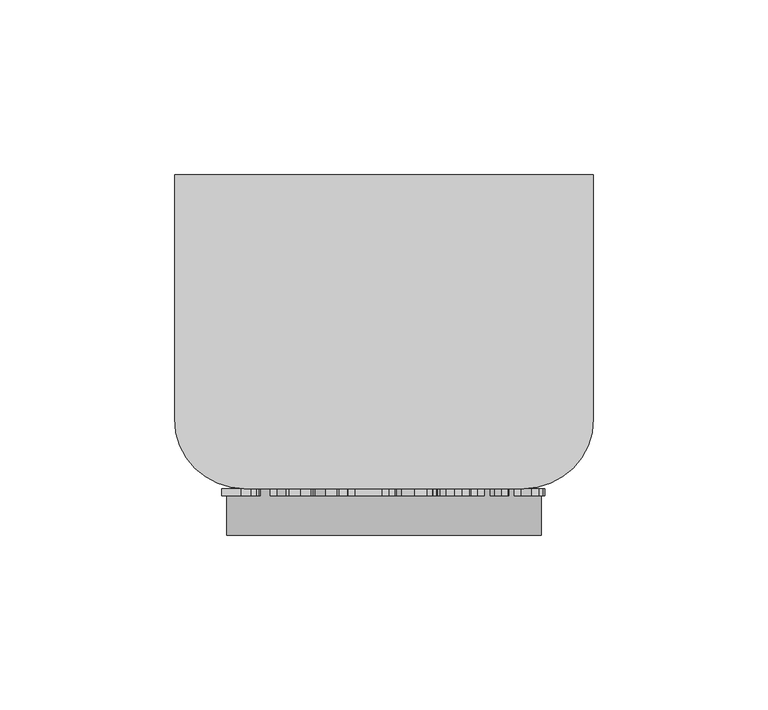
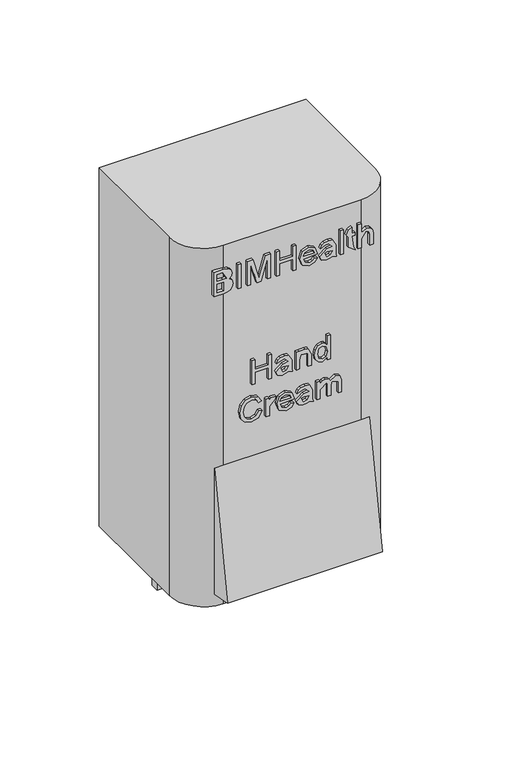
"""IFC4 building model written with IfcOpenShell, lengths in millimetres: proxy geometry, BIMHealth-Hand_Cream_Dispenser-LOD2A-v1 : BIMHealth-Hand_Cream_Dispenser-LOD2A-v1."""

import ifcopenshell
import ifcopenshell.guid

model = None  # the IFC model being written
_history = None  # IfcOwnerHistory: only IFC2X3 demands one
_inside = {}  # id of a spatial element -> (the spatial element, [elements in it])
_under = {}  # id of a project, library or spatial element -> (it, [spatial elements below it])
_declared = {}  # id of a project -> (the project, [libraries it declares])
_typed = {}  # id of a type object -> (the type object, [elements of that type])
_made_of = {}  # id of a material, layer set ... -> (it, [elements and type objects made of it])


def new_model(schema):
    """Start an empty IFC model of exactly this schema.

    Asked for "IFC4X3", IfcOpenShell would pick the latest addendum, in which some entities
    have other attributes; the version numbers below select the first issue.
    IFC2X3 requires an IfcOwnerHistory on every rooted entity: one is made here for all.
    """
    global model, _history
    if schema == "IFC4X3":
        model = ifcopenshell.file(schema_version=(4, 3, 0, 0))
    else:
        model = ifcopenshell.file(schema=schema)
    _inside.clear()
    _under.clear()
    _declared.clear()
    _typed.clear()
    _made_of.clear()
    _history = None
    if model.schema == "IFC2X3":
        org = make("IfcOrganization", Name="unknown")
        user = make(
            "IfcPersonAndOrganization",
            ThePerson=make("IfcPerson", FamilyName="unknown"),
            TheOrganization=org,
        )
        app = make(
            "IfcApplication",
            ApplicationDeveloper=org,
            Version="unknown",
            ApplicationFullName="unknown",
            ApplicationIdentifier="unknown",
        )
        _history = make(
            "IfcOwnerHistory",
            OwningUser=user,
            OwningApplication=app,
            ChangeAction="ADDED",
            CreationDate=0,
        )
    return model


def make(cls, **values):
    """One entity of the class cls with the attributes given. An attribute that is None is left unset."""
    return model.create_entity(
        cls, **{name: value for name, value in values.items() if value is not None}
    )


def rooted(cls, **values):
    """An entity with a GlobalId (a new one), such as an element, a storey or a relation."""
    return make(cls, GlobalId=ifcopenshell.guid.new(), OwnerHistory=_history, **values)


def si_unit(unit_type, name, prefix=None):
    """IfcSIUnit, for example si_unit("LENGTHUNIT", "METRE", prefix="MILLI")."""
    return make("IfcSIUnit", UnitType=unit_type, Prefix=prefix, Name=name)


def assignment(units):
    """IfcUnitAssignment: the units of a project."""
    return None if units is None else make("IfcUnitAssignment", Units=units)


def point(xyz):
    """IfcCartesianPoint."""
    return None if xyz is None else make("IfcCartesianPoint", Coordinates=xyz)


def direction(xyz):
    """IfcDirection."""
    return None if xyz is None else make("IfcDirection", DirectionRatios=xyz)


def frame(location, z_axis=None, x_axis=None):
    """IfcAxis2Placement3D, a coordinate frame: its origin and axes. An axis left out is left unset."""
    return make(
        "IfcAxis2Placement3D",
        Location=point(location),
        Axis=direction(z_axis),
        RefDirection=direction(x_axis),
    )


def origin():
    """The frame at (0, 0, 0) with its axes left unset."""
    return frame((0.0, 0.0, 0.0))


def place(relative_to, where):
    """IfcLocalPlacement: puts the frame where relative to a parent placement (None: the world)."""
    return make(
        "IfcLocalPlacement", PlacementRelTo=relative_to, RelativePlacement=where
    )


def context(
    kind, dimensions, precision=None, world=None, true_north=None, identifier=None
):
    """IfcGeometricRepresentationContext, for example the 3D "Model" context."""
    return make(
        "IfcGeometricRepresentationContext",
        ContextIdentifier=identifier,
        ContextType=kind,
        CoordinateSpaceDimension=dimensions,
        Precision=precision,
        WorldCoordinateSystem=world,
        TrueNorth=true_north,
    )


def project(units=None, contexts=None):
    """IfcProject with its units and contexts."""
    return rooted(
        "IfcProject",
        Name="project",
        RepresentationContexts=contexts,
        UnitsInContext=assignment(units),
    )


def spatial(cls, under=None, at=None, **own):
    """A site, building, storey or space (cls), placed at a placement, below another one or the project."""
    s = rooted(cls, ObjectPlacement=at, **own)
    if under is not None:
        _under.setdefault(under.id(), (under, []))[1].append(s)
    return s


def polyline(points):
    """IfcPolyline through the points."""
    return make("IfcPolyline", Points=[point(p) for p in points])


def circle_curve(where, radius):
    """IfcCircle in the frame where."""
    return make("IfcCircle", Position=where, Radius=radius)


def outline(outer, holes=None, kind="AREA"):
    """IfcArbitraryClosedProfileDef: a profile drawn as a closed curve; with holes, ...WithVoids."""
    if holes is None:
        return make("IfcArbitraryClosedProfileDef", ProfileType=kind, OuterCurve=outer)
    return make(
        "IfcArbitraryProfileDefWithVoids",
        ProfileType=kind,
        OuterCurve=outer,
        InnerCurves=holes,
    )


def extrude(swept, where, along, depth):
    """IfcExtrudedAreaSolid: the profile swept, set in the frame where, extruded along a direction by depth."""
    return make(
        "IfcExtrudedAreaSolid",
        SweptArea=swept,
        Position=where,
        ExtrudedDirection=direction(along),
        Depth=depth,
    )


def shape(context_of_items, identifier, shape_type, items):
    """IfcShapeRepresentation: the items that make up one representation, for example the "Body"."""
    return make(
        "IfcShapeRepresentation",
        ContextOfItems=context_of_items,
        RepresentationIdentifier=identifier,
        RepresentationType=shape_type,
        Items=items,
    )


def source(mapping_origin, context_of_items, identifier, shape_type, items):
    """IfcRepresentationMap: a shape defined once, which mapped items show again and again."""
    return make(
        "IfcRepresentationMap",
        MappingOrigin=mapping_origin,
        MappedRepresentation=shape(context_of_items, identifier, shape_type, items),
    )


def transform(
    local_origin,
    x_axis=None,
    y_axis=None,
    z_axis=None,
    scale=None,
    scale2=None,
    scale3=None,
    uniform=True,
):
    """IfcCartesianTransformationOperator3D, or its non-uniform kind. x_axis, y_axis, z_axis: its Axis1, 2, 3."""
    if uniform:
        return make(
            "IfcCartesianTransformationOperator3D",
            Axis1=direction(x_axis),
            Axis2=direction(y_axis),
            LocalOrigin=point(local_origin),
            Scale=scale,
            Axis3=direction(z_axis),
        )
    return make(
        "IfcCartesianTransformationOperator3DnonUniform",
        Axis1=direction(x_axis),
        Axis2=direction(y_axis),
        LocalOrigin=point(local_origin),
        Scale=scale,
        Axis3=direction(z_axis),
        Scale2=scale2,
        Scale3=scale3,
    )


def mapped(mapping_source, mapping_target):
    """IfcMappedItem: shows the shape of a source again, moved by a transform."""
    return make(
        "IfcMappedItem", MappingSource=mapping_source, MappingTarget=mapping_target
    )


def made_of(thing, what):
    """Note that an element or type object is made of a material, layer set ...; save() writes the relation."""
    if what is not None:
        _made_of.setdefault(what.id(), (what, []))[1].append(thing)
    return thing


def element(
    cls,
    number,
    at=None,
    inside=None,
    cuts=None,
    type_object=None,
    material=None,
    context=None,
    identifier="Body",
    shape_type=None,
    held_by="IfcProductDefinitionShape",
    body=None,
    shapes=None,
    **own,
):
    """One element of the class cls, such as IfcWall. Its Tag is "e" and its number.

    at: its placement. inside: the storey or other place that contains it. cuts: it is an
    opening in that element (IfcRelVoidsElement). A single representation is given by context,
    identifier, shape_type and body (its items); several are given by shapes. held_by: the class
    of the entity that holds the representations. save() writes the other relations.
    """
    e = rooted(cls, Tag="e%d" % number, ObjectPlacement=at, **own)
    if body is not None:
        shapes = [shape(context, identifier, shape_type, body)]
    if shapes is not None:
        e.Representation = make(held_by, Representations=shapes)
    if inside is not None:
        _inside.setdefault(inside.id(), (inside, []))[1].append(e)
    if cuts is not None:
        rooted(
            "IfcRelVoidsElement", RelatingBuildingElement=cuts, RelatedOpeningElement=e
        )
    if type_object is not None:
        _typed.setdefault(type_object.id(), (type_object, []))[1].append(e)
    return made_of(e, material)


def aggregate(whole, parts):
    """IfcRelAggregates: a whole, such as a stair, and the parts it consists of."""
    return rooted("IfcRelAggregates", RelatingObject=whole, RelatedObjects=parts)


def save(model, path):
    """Write the relations noted so far, then the file.

    IfcRelAggregates (storeys below a building ...), IfcRelContainedInSpatialStructure (elements
    in a storey), IfcRelDefinesByType, IfcRelAssociatesMaterial and IfcRelDeclares: one each for
    every whole, place, type object, material and project.
    """
    for whole, parts in _under.values():
        aggregate(whole, parts)
    for where, things in _inside.values():
        rooted(
            "IfcRelContainedInSpatialStructure",
            RelatedElements=things,
            RelatingStructure=where,
        )
    for kind, things in _typed.values():
        rooted("IfcRelDefinesByType", RelatedObjects=things, RelatingType=kind)
    for what, things in _made_of.values():
        rooted("IfcRelAssociatesMaterial", RelatedObjects=things, RelatingMaterial=what)
    for by, libraries in _declared.values():
        rooted("IfcRelDeclares", RelatingContext=by, RelatedDefinitions=libraries)
    model.write(path)


def plane_surface(at):
    """IfcPlane: the flat surface through the origin of the frame at, square to its z axis."""
    return make("IfcPlane", Position=at)


def cylinder_surface(at, radius):
    """IfcCylindricalSurface: all points at the distance radius from the z axis of the frame at."""
    return make("IfcCylindricalSurface", Position=at, Radius=radius)


def revolved_surface(curve, axis_point, axis_direction):
    """IfcSurfaceOfRevolution: the curve turned about the line through axis_point along axis_direction."""
    return make(
        "IfcSurfaceOfRevolution",
        SweptCurve=make("IfcArbitraryOpenProfileDef", ProfileType="CURVE", Curve=curve),
        AxisPosition=make("IfcAxis1Placement", Location=point(axis_point), Axis=direction(axis_direction)),
    )


def advanced_brep(points, edges, surfaces, faces):
    """IfcAdvancedBrep: a solid bounded by faces that lie on surfaces and meet in shared edges.

    An edge is (start, end): straight between two places in points (the first is 0);
    or (start, end, curve); or (start, end, curve, False) where it runs against its curve.
    A face is (place in surfaces, loops), or (place, loops, False) where it looks against
    its surface's normal. A loop lists edges by number (the first is 1), with a minus sign
    where the edge is run from its end to its start. The first loop is the outer one.
    """
    corners = [point(p) for p in points]
    vertices = [make("IfcVertexPoint", VertexGeometry=c) for c in corners]
    made = []
    for start, end, *more in edges:
        made.append(
            make(
                "IfcEdgeCurve",
                EdgeStart=vertices[start],
                EdgeEnd=vertices[end],
                EdgeGeometry=more[0] if more else make("IfcPolyline", Points=[corners[start], corners[end]]),
                SameSense=more[1] if len(more) > 1 else True,
            )
        )
    hull = []
    for where, loops, *sense in faces:
        bounds = []
        for j, loop in enumerate(loops):
            ring = [make("IfcOrientedEdge", EdgeElement=made[abs(k) - 1], Orientation=k > 0) for k in loop]
            bounds.append(
                make(
                    "IfcFaceOuterBound" if j == 0 else "IfcFaceBound",
                    Bound=make("IfcEdgeLoop", EdgeList=ring),
                    Orientation=True,
                )
            )
        hull.append(make("IfcAdvancedFace", Bounds=bounds, FaceSurface=surfaces[where], SameSense=sense[0] if sense else True))
    return make("IfcAdvancedBrep", Outer=make("IfcClosedShell", CfsFaces=hull))


def generic_models_60712680(model_context):
    return source(origin(), model_context, "Body", "SolidModel", [
        advanced_brep(
        [(105.0, -90.0, 1285.0), (105.0, -103.2245236, 1210.0), (105.0, -90.0, 1207.6681597), (15.0, -90.0, 1285.0), (15.0, -90.0, 1207.6681597), (15.0, -103.2245236, 1210.0), (100.0, -90.0, 1285.0), (20.0, -90.0, 1285.0), (20.0, -90.0, 1207.6681597), (100.0, -90.0, 1207.6681597), (120.0, 0.0, 1420.0), (0.0, 0.0, 1420.0), (0.0, -70.0, 1420.0), (20.0, -90.0, 1420.0), (100.0, -90.0, 1420.0), (120.0, -70.0, 1420.0), (120.0, 0.0, 1200.0), (120.0, -70.0, 1200.0), (100.0, -90.0, 1200.0), (20.0, -90.0, 1200.0), (0.0, -70.0, 1200.0), (0.0, 0.0, 1200.0), (105.0, -28.5293941, 1200.0), (105.0, -22.9795216, 1200.0), (15.0, -22.9795216, 1200.0), (15.0, -28.5293941, 1200.0), (50.0, -57.3334755, 1200.0), (70.0, -57.3334755, 1200.0), (105.0, -27.2939412, 1175.1752078), (105.0, -32.3334755, 1175.1752078), (15.0, -27.2939412, 1175.1752078), (15.0, -32.3334755, 1175.1752078), (50.0, -57.3334755, 1190.0), (70.0, -57.3334755, 1190.0)],
        [
            (0, 1),
            (1, 2),
            (2, 0),
            (3, 4),
            (4, 5),
            (5, 3),
            (0, 6),
            (6, 7),
            (7, 3),
            (5, 1),
            (4, 8),
            (8, 9),
            (9, 2),
            (9, 6),
            (7, 8),
            (10, 11),
            (11, 12),
            (12, 13, circle_curve(frame((20.0, -70.0, 1420.0), z_axis=(0.0, 0.0, 1.0), x_axis=(1.0, 0.0, 0.0)), 20.0)),
            (13, 14),
            (14, 15, circle_curve(frame((100.0, -70.0, 1420.0), z_axis=(0.0, 0.0, 1.0), x_axis=(-1.0, 0.0, 0.0)), 20.0)),
            (15, 10),
            (16, 17),
            (17, 18, circle_curve(frame((100.0, -70.0, 1200.0), z_axis=(0.0, 0.0, -1.0), x_axis=(-1.0, 0.0, 0.0)), 20.0)),
            (18, 19),
            (19, 20, circle_curve(frame((20.0, -70.0, 1200.0), z_axis=(0.0, 0.0, -1.0), x_axis=(1.0, 0.0, 0.0)), 20.0)),
            (20, 21),
            (21, 16),
            (22, 23),
            (23, 24),
            (24, 25),
            (25, 22),
            (26, 27, circle_curve(frame((60.0, -57.3334755, 1200.0), z_axis=(0.0, 0.0, 1.0), x_axis=(1.0, 0.0, 0.0)), 10.0)),
            (27, 26, circle_curve(frame((60.0, -57.3334755, 1200.0), z_axis=(0.0, 0.0, 1.0), x_axis=(1.0, 0.0, 0.0)), 10.0)),
            (10, 16),
            (21, 11),
            (20, 12),
            (19, 8),
            (7, 13),
            (6, 14),
            (18, 9),
            (17, 15),
            (28, 23, circle_curve(frame((105.0, 14.3301993, 1180.7284569), z_axis=(-1.0, 0.0, 0.0), x_axis=(0.0, -1.0, 0.0)), 41.9929476)),
            (22, 29, circle_curve(frame((105.0, 14.3301993, 1180.7284569), z_axis=(1.0, 0.0, 0.0), x_axis=(0.0, -1.0, 0.0)), 46.9929476)),
            (29, 28),
            (30, 31),
            (31, 25, circle_curve(frame((15.0, 14.3301993, 1180.7284569), z_axis=(-1.0, 0.0, 0.0), x_axis=(0.0, -1.0, 0.0)), 46.9929476)),
            (24, 30, circle_curve(frame((15.0, 14.3301993, 1180.7284569), z_axis=(1.0, 0.0, 0.0), x_axis=(0.0, -1.0, 0.0)), 41.9929476)),
            (28, 30),
            (31, 29),
            (32, 33, circle_curve(frame((60.0, -57.3334755, 1190.0), z_axis=(0.0, 0.0, -1.0), x_axis=(1.0, 0.0, 0.0)), 10.0)),
            (33, 32, circle_curve(frame((60.0, -57.3334755, 1190.0), z_axis=(0.0, 0.0, -1.0), x_axis=(1.0, 0.0, 0.0)), 10.0)),
            (33, 27),
            (26, 32),
        ],
        [
            plane_surface(frame((105.0, -90.0, 1285.0), z_axis=(1.0, 0.0, 0.0), x_axis=(0.0, -0.17364817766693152, -0.9848077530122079))),
            plane_surface(frame((15.0, -90.0, 1285.0), z_axis=(-1.0, 0.0, 0.0), x_axis=(0.0, 0.17364817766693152, 0.9848077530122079))),
            plane_surface(frame((105.0, -90.0, 1285.0), z_axis=(0.0, -0.9848077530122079, 0.17364817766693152), x_axis=(-1.0, 0.0, 0.0))),
            plane_surface(frame((105.0, -103.2245236, 1210.0), z_axis=(0.0, -0.173648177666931, -0.984807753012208), x_axis=(-1.0, 0.0, 0.0))),
            plane_surface(frame((105.0, -90.0, 1207.6681597), z_axis=(0.0, 1.0, 0.0), x_axis=(-1.0, 0.0, 0.0))),
            plane_surface(frame((0.0, 0.0, 1420.0), z_axis=(0.0, 0.0, 1.0), x_axis=(-1.0, 0.0, 0.0))),
            plane_surface(frame((0.0, 0.0, 1200.0), z_axis=(0.0, 0.0, -1.0), x_axis=(1.0, 0.0, 0.0))),
            plane_surface(frame((120.0, 0.0, 1420.0), z_axis=(0.0, 1.0, 0.0), x_axis=(0.0, 0.0, -1.0))),
            plane_surface(frame((0.0, 0.0, 1420.0), z_axis=(-1.0, 0.0, 0.0), x_axis=(0.0, 0.0, -1.0))),
            cylinder_surface(frame((20.0, -70.0, 1200.0), z_axis=(0.0, 0.0, 1.0), x_axis=(1.0, 0.0, 0.0)), 20.0),
            plane_surface(frame((20.0, -90.0, 1420.0), z_axis=(0.0, -1.0, 0.0), x_axis=(0.0, 0.0, -1.0))),
            cylinder_surface(frame((100.0, -70.0, 1200.0), z_axis=(0.0, 0.0, 1.0), x_axis=(-1.0, 0.0, 0.0)), 20.0),
            plane_surface(frame((120.0, -70.0, 1420.0), z_axis=(1.0, 0.0, 0.0), x_axis=(0.0, 0.0, -1.0))),
            plane_surface(frame((105.0, -27.6627483, 1180.7284569), z_axis=(1.0, 0.0, 0.0), x_axis=(0.0, 0.0, 1.0))),
            plane_surface(frame((15.0, -27.6627483, 1180.7284569), z_axis=(-1.0, 0.0, 0.0), x_axis=(0.0, 0.0, -1.0))),
            revolved_surface(polyline([(15.0, -27.6627483, 1180.7284569), (105.0, -27.6627483, 1180.7284569)]), (15.0, 14.3301993, 1180.7284569), (-1.0, 0.0, 0.0)),
            cylinder_surface(frame((15.0, 14.3301993, 1180.7284569), z_axis=(1.0, 0.0, 0.0), x_axis=(0.0, -1.0, 0.0)), 46.9929476),
            plane_surface(frame((105.0, -32.3334755, 1175.1752078), z_axis=(0.0, 0.0, -1.0), x_axis=(-1.0, 0.0, 0.0))),
            plane_surface(frame((70.0, -57.3334755, 1190.0), z_axis=(0.0, 0.0, -1.0), x_axis=(0.0, -1.0, 0.0))),
            cylinder_surface(frame((60.0, -57.3334755, 1190.0), z_axis=(0.0, 0.0, 1.0), x_axis=(1.0, 0.0, 0.0)), 10.0),
        ],
        [
            (0, [[1, 2, 3]]),
            (1, [[4, 5, 6]]),
            (2, [[-1, 7, 8, 9, -6, 10]]),
            (3, [[-2, -10, -5, 11, 12, 13]]),
            (4, [[-3, -13, 14, -7]]),
            (4, [[-4, -9, 15, -11]]),
            (5, [[16, 17, 18, 19, 20, 21]]),
            (6, [[22, 23, 24, 25, 26, 27], [28, 29, 30, 31], [32, 33]]),
            (7, [[-16, 34, -27, 35]]),
            (8, [[-17, -35, -26, 36]]),
            (9, [[-18, -36, -25, 37, -15, 38]]),
            (10, [[-19, -38, -8, 39]]),
            (10, [[-24, 40, -12, -37]]),
            (11, [[-20, -39, -14, -40, -23, 41]]),
            (12, [[-21, -41, -22, -34]]),
            (13, [[42, -28, 43, 44]]),
            (14, [[45, 46, -30, 47]]),
            (15, [[-42, 48, -47, -29]]),
            (16, [[-43, -31, -46, 49]]),
            (17, [[-44, -49, -45, -48]]),
            (18, [[50, 51]]),
            (19, [[-51, 52, -32, 53]]),
            (19, [[-50, -53, -33, -52]]),
        ],
    ),
        extrude(outline(polyline([(1330.1664451, 35.5223483), (1330.1664451, 37.3685022), (1337.0895221, 37.3685022), (1337.0895221, 45.214656), (1330.1664451, 45.214656), (1330.1664451, 47.0608099), (1344.9356759, 47.0608099), (1344.9356759, 45.214656), (1338.9356759, 45.214656), (1338.9356759, 37.3685022), (1344.9356759, 37.3685022), (1344.9356759, 35.5223483), (1330.1664451, 35.5223483)])), frame((0.0, -92.0, 0.0), z_axis=(0.0, 1.0, 0.0), x_axis=(0.0, 0.0, 1.0)), (0.0, 0.0, 1.0), 2.0),
        extrude(outline(polyline([(1330.8587528, 57.214656), (1330.1664451, 59.2915791), (1331.7187288, 58.9237906), (1334.9260605, 58.8300406), (1337.2229355, 58.8300406), (1340.9152432, 56.9099685), (1341.2433682, 54.6725887), (1340.871974, 52.2368916), (1339.8154836, 50.6287185), (1338.012599, 49.8300406), (1339.0420461, 52.5668195), (1339.3972144, 54.4346079), (1337.0895221, 56.9730695), (1336.4549067, 53.7711464), (1333.0510605, 49.5992714), (1330.8118778, 50.5349685), (1329.9356759, 53.2158579), (1330.2998586, 55.1936224), (1330.8587528, 57.214656)]), holes=[polyline([(1334.2680076, 56.8324445), (1332.2235365, 55.4766753), (1331.7818298, 53.6088868), (1334.3779836, 52.4171801), (1334.6772625, 54.0055214), (1334.2680076, 56.8324445)])]), frame((0.0, -92.0, 0.0), z_axis=(0.0, 1.0, 0.0), x_axis=(0.0, 0.0, 1.0)), (0.0, 0.0, 1.0), 2.0),
        extrude(outline(polyline([(1330.1664451, 61.3685022), (1330.1664451, 63.214656), (1335.9212528, 63.214656), (1338.6724548, 64.0566031), (1338.2109163, 68.0788387), (1336.5775028, 68.2915791), (1330.1664451, 68.2915791), (1330.1664451, 70.1377329), (1336.8263009, 70.1377329), (1340.8918057, 68.2969878), (1341.2433682, 66.5535983), (1341.012599, 63.214656), (1341.012599, 61.3685022), (1330.1664451, 61.3685022)])), frame((0.0, -92.0, 0.0), z_axis=(0.0, 1.0, 0.0), x_axis=(0.0, 0.0, 1.0)), (0.0, 0.0, 1.0), 2.0),
        extrude(outline(polyline([(1330.1664451, 79.3685022), (1330.1664451, 81.214656), (1344.9356759, 81.214656), (1344.9356759, 79.3685022), (1339.4332721, 79.3685022), (1340.7403634, 78.1533579), (1341.2433682, 76.4514349), (1340.5402432, 74.0950647), (1338.5174067, 72.512132), (1335.5787048, 71.9838868), (1332.6418057, 72.5572041), (1330.6496182, 74.1725887), (1329.9356759, 76.4586464), (1331.9080317, 79.3685022), (1330.1664451, 79.3685022)]), holes=[polyline([(1335.5859163, 73.8300406), (1338.4795461, 74.6088868), (1339.3972144, 76.5523964), (1338.4416855, 78.5554012), (1335.4452913, 79.3685022), (1332.685075, 78.5698243), (1331.7818298, 76.6281176), (1332.7283442, 74.6629733), (1335.5859163, 73.8300406)])]), frame((0.0, -92.0, 0.0), z_axis=(0.0, 1.0, 0.0), x_axis=(0.0, 0.0, 1.0)), (0.0, 0.0, 1.0), 2.0),
        extrude(outline(polyline([(1391.9233699, 13.5206171), (1391.9233699, 19.1131652), (1392.1775767, 21.4803527), (1392.9275767, 23.0867229), (1394.3410382, 24.163045), (1396.3260142, 24.5975402), (1398.6228892, 23.9611219), (1400.000293, 22.1420114), (1401.3073844, 23.6402085), (1403.0327449, 24.1360017), (1404.922168, 23.5464585), (1406.2581055, 21.9166508), (1406.6926007, 19.1564344), (1406.6926007, 13.5206171), (1391.9233699, 13.5206171)]), holes=[polyline([(1393.7695238, 15.366771), (1398.8464469, 15.366771), (1398.8464469, 18.9725402), (1393.7695238, 19.1528287), (1393.7695238, 15.366771)]), polyline([(1400.6926007, 15.366771), (1404.8464469, 15.366771), (1404.8464469, 18.4821556), (1400.8512546, 20.7069152), (1400.6926007, 18.7381652), (1400.6926007, 15.366771)])]), frame((0.0, -92.0, 0.0), z_axis=(0.0, 1.0, 0.0), x_axis=(0.0, 0.0, 1.0)), (0.0, 0.0, 1.0), 2.0),
        extrude(outline(polyline([(29.2129248, -92.0), (27.366771, -92.0), (27.366771, -90.0), (29.2129248, -90.0), (29.2129248, -92.0)])), frame((0.0, 0.0, 1391.9233699), z_axis=(0.0, 0.0, 1.0), x_axis=(1.0, 0.0, 0.0)), (0.0, 0.0, 1.0), 14.7692308),
        extrude(outline(polyline([(1391.9233699, 32.9052325), (1391.9233699, 34.7513864), (1404.8464469, 34.7513864), (1391.9233699, 38.4617229), (1391.9233699, 40.9641267), (1404.8464469, 44.6744633), (1391.9233699, 44.6744633), (1391.9233699, 46.5206171), (1406.6926007, 46.5206171), (1406.6926007, 43.3439344), (1396.4630334, 40.3727806), (1394.1084661, 39.7129248), (1396.2827449, 39.1035498), (1406.6926007, 36.0819152), (1406.6926007, 32.9052325), (1391.9233699, 32.9052325)])), frame((0.0, -92.0, 0.0), z_axis=(0.0, 1.0, 0.0), x_axis=(0.0, 0.0, 1.0)), (0.0, 0.0, 1.0), 2.0),
        extrude(outline(polyline([(1391.9233699, 49.7513864), (1391.9233699, 51.5975402), (1398.8464469, 51.5975402), (1398.8464469, 59.4436941), (1391.9233699, 59.4436941), (1391.9233699, 61.2898479), (1406.6926007, 61.2898479), (1406.6926007, 59.4436941), (1400.6926007, 59.4436941), (1400.6926007, 51.5975402), (1406.6926007, 51.5975402), (1406.6926007, 49.7513864), (1391.9233699, 49.7513864)])), frame((0.0, -92.0, 0.0), z_axis=(0.0, 1.0, 0.0), x_axis=(0.0, 0.0, 1.0)), (0.0, 0.0, 1.0), 2.0),
        extrude(outline(polyline([(1395.1541392, 71.8835979), (1393.9245719, 70.6936941), (1393.5387546, 68.8835979), (1394.3716873, 66.5055931), (1396.7695238, 65.4436941), (1397.2671199, 73.7513864), (1401.4966873, 72.350545), (1403.000293, 68.7429729), (1401.4930815, 65.0290306), (1397.2563026, 63.5975402), (1393.1547401, 65.0146075), (1391.6926007, 68.8475402), (1392.5399565, 72.0007854), (1394.9233699, 73.6936941), (1395.1541392, 71.8835979)]), holes=[polyline([(1398.6156776, 65.4436941), (1400.4636344, 66.4623239), (1401.1541392, 68.7357614), (1400.2887546, 71.1660498), (1398.6156776, 71.9052325), (1398.6156776, 65.4436941)])]), frame((0.0, -92.0, 0.0), z_axis=(0.0, 1.0, 0.0), x_axis=(0.0, 0.0, 1.0)), (0.0, 0.0, 1.0), 2.0),
        extrude(outline(polyline([(1392.6156776, 82.7513864), (1391.9233699, 84.8283094), (1393.4756536, 84.460521), (1396.6829853, 84.366771), (1398.9798603, 84.366771), (1402.672168, 82.4466989), (1403.000293, 80.2093191), (1402.6288988, 77.7736219), (1401.5724084, 76.1654489), (1399.7695238, 75.366771), (1400.7989709, 78.1035498), (1401.1541392, 79.9713383), (1398.8464469, 82.5097998), (1398.2118315, 79.3078767), (1394.8079853, 75.1360017), (1392.5688026, 76.0716989), (1391.6926007, 78.7525883), (1392.0567834, 80.7303527), (1392.6156776, 82.7513864)]), holes=[polyline([(1396.0249324, 82.3691748), (1393.9804613, 81.0134056), (1393.5387546, 79.1456171), (1396.1349084, 77.9539104), (1396.4341873, 79.5422517), (1396.0249324, 82.3691748)])]), frame((0.0, -92.0, 0.0), z_axis=(0.0, 1.0, 0.0), x_axis=(0.0, 0.0, 1.0)), (0.0, 0.0, 1.0), 2.0),
        extrude(outline(polyline([(88.7513864, -92.0), (86.9052325, -92.0), (86.9052325, -90.0), (88.7513864, -90.0), (88.7513864, -92.0)])), frame((0.0, 0.0, 1391.9233699), z_axis=(0.0, 0.0, 1.0), x_axis=(1.0, 0.0, 0.0)), (0.0, 0.0, 1.0), 14.7692308),
        extrude(outline(polyline([(1394.2076248, 94.5206171), (1400.9233699, 93.5975402), (1400.9233699, 95.4436941), (1402.7695238, 95.4436941), (1402.7695238, 93.5975402), (1406.4906776, 93.5975402), (1405.4053411, 91.7513864), (1402.7695238, 90.366771), (1400.9233699, 91.7513864), (1394.8981296, 91.7513864), (1391.8692834, 95.6744633), (1394.2076248, 94.5206171)])), frame((0.0, -92.0, 0.0), z_axis=(0.0, 1.0, 0.0), x_axis=(0.0, 0.0, 1.0)), (0.0, 0.0, 1.0), 2.0),
        extrude(outline(polyline([(1391.9233699, 97.2898479), (1391.9233699, 99.1360017), (1397.6853892, 99.1360017), (1401.1541392, 101.9593191), (1400.5447642, 103.6251844), (1398.5976488, 104.2129248), (1391.9233699, 104.2129248), (1391.9233699, 106.0590787), (1398.7887546, 106.0590787), (1401.2154373, 105.6804729), (1402.5261344, 104.4220594), (1403.000293, 102.3487421), (1401.2623123, 99.1360017), (1406.6926007, 99.1360017), (1406.6926007, 97.2898479), (1391.9233699, 97.2898479)])), frame((0.0, -92.0, 0.0), z_axis=(0.0, 1.0, 0.0), x_axis=(0.0, 0.0, 1.0)), (0.0, 0.0, 1.0), 2.0),
        extrude(outline(polyline([(1312.9164451, 39.6569637), (1310.1976951, 38.090257), (1309.2818298, 35.2651368), (1309.9543057, 32.7176608), (1311.9861567, 30.9832858), (1315.1664451, 30.4261945), (1317.9104355, 30.8967474), (1320.0306278, 32.5283579), (1320.8202913, 35.4165791), (1320.1081519, 37.9117714), (1317.8383201, 39.4261945), (1318.278224, 41.2723483), (1321.5162048, 39.1864108), (1322.6664451, 35.4886945), (1321.777623, 31.9406176), (1319.1760605, 29.4544397), (1315.1628394, 28.5800406), (1311.2145221, 29.3534781), (1308.4056278, 31.6070839), (1307.4356759, 35.449031), (1308.7175269, 39.3144156), (1312.4404836, 41.5031176), (1312.9164451, 39.6569637)])), frame((0.0, -92.0, 0.0), z_axis=(0.0, 1.0, 0.0), x_axis=(0.0, 0.0, 1.0)), (0.0, 0.0, 1.0), 2.0),
        extrude(outline(polyline([(1307.6664451, 43.8108099), (1307.6664451, 45.6569637), (1313.3671663, 45.6569637), (1316.5186086, 48.9634541), (1318.1736567, 49.5800406), (1318.3863971, 46.5728291), (1316.9080317, 45.4261945), (1318.512599, 45.4261945), (1318.512599, 43.8108099), (1307.6664451, 43.8108099)])), frame((0.0, -92.0, 0.0), z_axis=(0.0, 1.0, 0.0), x_axis=(0.0, 0.0, 1.0)), (0.0, 0.0, 1.0), 2.0),
        extrude(outline(polyline([(1310.8972144, 58.3276368), (1309.6676471, 57.1377329), (1309.2818298, 55.3276368), (1310.1147625, 52.949632), (1312.512599, 51.8877329), (1313.0101951, 60.1954253), (1317.2397625, 58.7945839), (1318.7433682, 55.1870118), (1317.2361567, 51.4730695), (1312.9993778, 50.0415791), (1308.8978153, 51.4586464), (1307.4356759, 55.2915791), (1308.2830317, 58.4448243), (1310.6664451, 60.1377329), (1310.8972144, 58.3276368)]), holes=[polyline([(1314.3587528, 51.8877329), (1316.2067096, 52.9063628), (1316.8972144, 55.1798003), (1316.0318298, 57.6100887), (1314.3587528, 58.3492714), (1314.3587528, 51.8877329)])]), frame((0.0, -92.0, 0.0), z_axis=(0.0, 1.0, 0.0), x_axis=(0.0, 0.0, 1.0)), (0.0, 0.0, 1.0), 2.0),
        extrude(outline(polyline([(1308.3587528, 69.1954253), (1307.6664451, 71.2723483), (1309.2187288, 70.9045599), (1312.4260605, 70.8108099), (1314.7229355, 70.8108099), (1318.4152432, 68.8907378), (1318.7433682, 66.6533579), (1318.371974, 64.2176608), (1317.3154836, 62.6094878), (1315.512599, 61.8108099), (1316.5420461, 64.5475887), (1316.8972144, 66.4153772), (1314.5895221, 68.9538387), (1313.9549067, 65.7519156), (1310.5510605, 61.5800406), (1308.3118778, 62.5157378), (1307.4356759, 65.1966272), (1307.7998586, 67.1743916), (1308.3587528, 69.1954253)]), holes=[polyline([(1311.7680076, 68.8132137), (1309.7235365, 67.4574445), (1309.2818298, 65.589656), (1311.8779836, 64.3979493), (1312.1772625, 65.9862906), (1311.7680076, 68.8132137)])]), frame((0.0, -92.0, 0.0), z_axis=(0.0, 1.0, 0.0), x_axis=(0.0, 0.0, 1.0)), (0.0, 0.0, 1.0), 2.0),
        extrude(outline(polyline([(1307.6664451, 73.3492714), (1307.6664451, 75.1954253), (1313.1363971, 75.1954253), (1316.3022625, 79.152757), (1314.5138009, 79.5800406), (1307.6664451, 79.5800406), (1307.6664451, 81.4261945), (1313.7890413, 81.4261945), (1316.1580317, 82.1491512), (1314.3082721, 85.8108099), (1307.6664451, 85.8108099), (1307.6664451, 87.6569637), (1315.1015413, 87.6569637), (1317.8509403, 86.8114108), (1318.7433682, 84.3973483), (1316.5979355, 81.1377329), (1318.1790653, 80.120906), (1318.7433682, 78.2711464), (1318.1898826, 76.464656), (1316.7277432, 75.1954253), (1318.512599, 75.1954253), (1318.512599, 73.3492714), (1307.6664451, 73.3492714)])), frame((0.0, -92.0, 0.0), z_axis=(0.0, 1.0, 0.0), x_axis=(0.0, 0.0, 1.0)), (0.0, 0.0, 1.0), 2.0),
    ])


if __name__ == "__main__":
    model = new_model("IFC4")
    model_context = context("Model", 3, world=origin())
    ifc_project = project(units=[si_unit("LENGTHUNIT", "METRE", prefix="MILLI")], contexts=[model_context])
    site = spatial("IfcSite", under=ifc_project)
    building = spatial("IfcBuilding", under=site)
    placement = place(None, origin())
    generic_models_shape = generic_models_60712680(model_context)
    element("IfcBuildingElementProxy", 1, Name="BIMHealth-Hand_Cream_Dispenser-LOD2A-v1 : BIMHealth-Hand_Cream_Dispenser-LOD2A-v1", ObjectType="BIMHealth-Hand_Cream_Dispenser-LOD2A-v1 : BIMHealth-Hand_Cream_Dispenser-LOD2A-v1", at=placement, inside=building, context=model_context, shape_type="MappedRepresentation", body=[
        mapped(generic_models_shape, transform((0.0, 0.0, 0.0), x_axis=(1.0, 0.0, 0.0), y_axis=(0.0, 1.0, 0.0), z_axis=(0.0, 0.0, 1.0))),
    ])
    save(model, "model.ifc")
